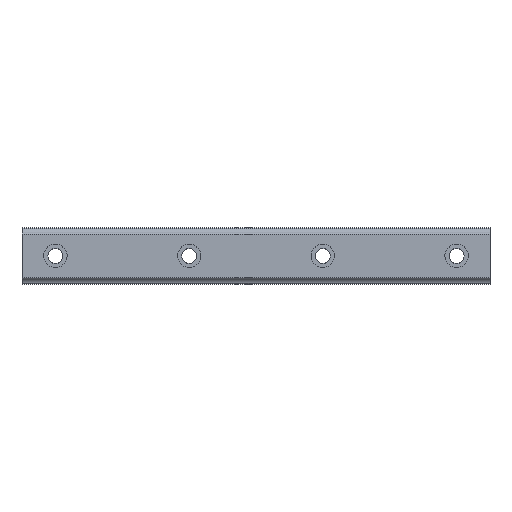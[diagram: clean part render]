
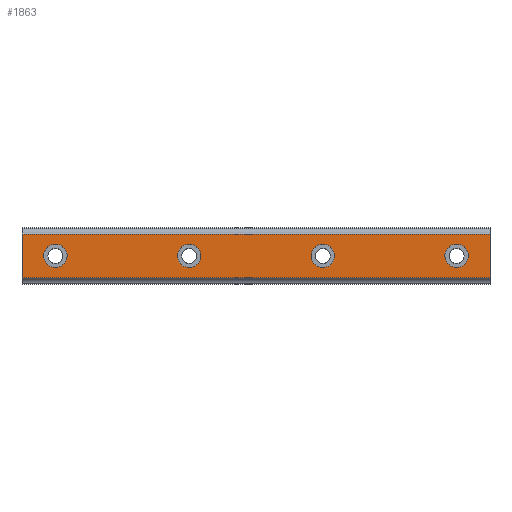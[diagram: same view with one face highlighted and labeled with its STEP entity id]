
A CAD part, top view. The second image highlights one B-rep face of the part: STEP entity #1863.
In plain terms, the highlighted planar face has unit normal (0, 0, 1).
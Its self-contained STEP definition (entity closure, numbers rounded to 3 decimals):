
#1528=CARTESIAN_POINT('POINT115',(260.,-13.11,
   29.));
#1529=VERTEX_POINT('VERTEX115',#1528);
#1536=CARTESIAN_POINT('POINT116',(-20.,-13.11,
   29.));
#1537=VERTEX_POINT('VERTEX116',#1536);
#1538=CARTESIAN_POINT('POS161',(-20.,-13.11,
   29.));
#1539=DIRECTION('DIR232',(1.,0.,0.));
#1540=VECTOR('VEC90',#1539,1.);
#1541=LINE('STRAIGHT90',#1538,#1540);
#1542=EDGE_CURVE('EDGE168',#1537,#1529,#1541,.T.);
#1575=CARTESIAN_POINT('POINT117',(-20.,13.11,
   29.));
#1576=VERTEX_POINT('VERTEX117',#1575);
#1577=CARTESIAN_POINT('POS164',(-20.,-13.11,
   29.));
#1578=DIRECTION('DIR236',(0.,1.,0.));
#1579=VECTOR('VEC92',#1578,1.);
#1580=LINE('STRAIGHT92',#1577,#1579);
#1581=EDGE_CURVE('EDGE170',#1537,#1576,#1580,.T.);
#1611=CARTESIAN_POINT('POINT118',(260.,13.11,
   29.));
#1612=VERTEX_POINT('VERTEX118',#1611);
#1621=CARTESIAN_POINT('POS168',(-20.,13.11,
   29.));
#1622=DIRECTION('DIR241',(1.,0.,0.));
#1623=VECTOR('VEC95',#1622,1.);
#1624=LINE('STRAIGHT95',#1621,#1623);
#1625=EDGE_CURVE('EDGE173',#1576,#1612,#1624,.T.);
#1652=CARTESIAN_POINT('POS170',(260.,-13.11,
   29.));
#1653=DIRECTION('DIR244',(0.,1.,0.));
#1654=VECTOR('VEC96',#1653,1.);
#1655=LINE('STRAIGHT96',#1652,#1654);
#1656=EDGE_CURVE('EDGE174',#1529,#1612,#1655,.T.);
#1680=CARTESIAN_POINT('POINT119',(87.,0.,
   29.));
#1681=VERTEX_POINT('VERTEX119',#1680);
#1689=CARTESIAN_POINT('POINT120',(73.,0.,
   29.));
#1690=VERTEX_POINT('VERTEX120',#1689);
#1697=CARTESIAN_POINT('POS174',(80.,0.,29.)
   );
#1698=DIRECTION('DIR249',(0.,0.,-1.));
#1699=DIRECTION('DIR250',(1.,0.,0.));
#1700=AXIS2_PLACEMENT_3D('AXIS76',#1697,#1698,#1699);
#1701=CIRCLE('ELLIPSE36',#1700,7.);
#1702=EDGE_CURVE('EDGE177',#1681,#1690,#1701,.T.);
#1713=EDGE_CURVE('EDGE178',#1690,#1681,#1701,.T.);
#1720=CARTESIAN_POINT('POINT121',(167.,0.,
   29.));
#1721=VERTEX_POINT('VERTEX121',#1720);
#1729=CARTESIAN_POINT('POINT122',(153.,0.,
   29.));
#1730=VERTEX_POINT('VERTEX122',#1729);
#1737=CARTESIAN_POINT('POS178',(160.,0.,29.)
   );
#1738=DIRECTION('DIR255',(0.,0.,-1.));
#1739=DIRECTION('DIR256',(1.,0.,0.));
#1740=AXIS2_PLACEMENT_3D('AXIS78',#1737,#1738,#1739);
#1741=CIRCLE('ELLIPSE37',#1740,7.);
#1742=EDGE_CURVE('EDGE181',#1721,#1730,#1741,.T.);
#1753=EDGE_CURVE('EDGE182',#1730,#1721,#1741,.T.);
#1760=CARTESIAN_POINT('POINT123',(247.,0.,
   29.));
#1761=VERTEX_POINT('VERTEX123',#1760);
#1769=CARTESIAN_POINT('POINT124',(233.,0.,
   29.));
#1770=VERTEX_POINT('VERTEX124',#1769);
#1777=CARTESIAN_POINT('POS182',(240.,0.,29.)
   );
#1778=DIRECTION('DIR261',(0.,0.,-1.));
#1779=DIRECTION('DIR262',(1.,0.,0.));
#1780=AXIS2_PLACEMENT_3D('AXIS80',#1777,#1778,#1779);
#1781=CIRCLE('ELLIPSE38',#1780,7.);
#1782=EDGE_CURVE('EDGE185',#1761,#1770,#1781,.T.);
#1793=EDGE_CURVE('EDGE186',#1770,#1761,#1781,.T.);
#1825=ORIENTED_EDGE('COEDGE365',*,*,#1793,.T.);
#1826=ORIENTED_EDGE('COEDGE366',*,*,#1782,.T.);
#1827=EDGE_LOOP('NONE',(#1825,#1826));
#1828=FACE_BOUND('LOOP1',#1827,.T.);
#1829=ORIENTED_EDGE('COEDGE367',*,*,#1753,.T.);
#1830=ORIENTED_EDGE('COEDGE368',*,*,#1742,.T.);
#1831=EDGE_LOOP('NONE',(#1829,#1830));
#1832=FACE_BOUND('LOOP1',#1831,.T.);
#1833=ORIENTED_EDGE('COEDGE369',*,*,#1713,.T.);
#1834=ORIENTED_EDGE('COEDGE370',*,*,#1702,.T.);
#1835=EDGE_LOOP('NONE',(#1833,#1834));
#1836=FACE_BOUND('LOOP1',#1835,.T.);
#1837=CARTESIAN_POINT('POINT127',(-7.,0.,
   29.));
#1838=VERTEX_POINT('VERTEX127',#1837);
#1839=CARTESIAN_POINT('POINT128',(7.,0.,
   29.));
#1840=VERTEX_POINT('VERTEX128',#1839);
#1841=CARTESIAN_POINT('POS186',(0.,0.,29.)
   );
#1842=DIRECTION('DIR269',(0.,0.,-1.));
#1843=DIRECTION('DIR270',(1.,0.,0.));
#1844=AXIS2_PLACEMENT_3D('AXIS84',#1841,#1842,#1843);
#1845=CIRCLE('ELLIPSE40',#1844,7.);
#1846=EDGE_CURVE('EDGE189',#1838,#1840,#1845,.T.);
#1847=ORIENTED_EDGE('COEDGE371',*,*,#1846,.T.);
#1848=EDGE_CURVE('EDGE190',#1840,#1838,#1845,.T.);
#1849=ORIENTED_EDGE('COEDGE372',*,*,#1848,.T.);
#1850=EDGE_LOOP('NONE',(#1847,#1849));
#1851=FACE_BOUND('LOOP1',#1850,.T.);
#1852=ORIENTED_EDGE('COEDGE373',*,*,#1656,.T.);
#1853=ORIENTED_EDGE('COEDGE374',*,*,#1625,.F.);
#1854=ORIENTED_EDGE('COEDGE375',*,*,#1581,.F.);
#1855=ORIENTED_EDGE('COEDGE376',*,*,#1542,.T.);
#1856=EDGE_LOOP('NONE',(#1852,#1853,#1854,#1855));
#1857=FACE_BOUND('LOOP1',#1856,.T.);
#1858=CARTESIAN_POINT('POS187',(-20.,-13.11,
   29.));
#1859=DIRECTION('DIR271',(0.,0.,1.));
#1860=DIRECTION('DIR272',(1.,0.,0.));
#1861=AXIS2_PLACEMENT_3D('AXIS85',#1858,#1859,#1860);
#1862=PLANE('PLANE34',#1861);
#1863=ADVANCED_FACE('FACE64',(#1828,#1832,#1836,#1851,#1857),#1862,.T.);
